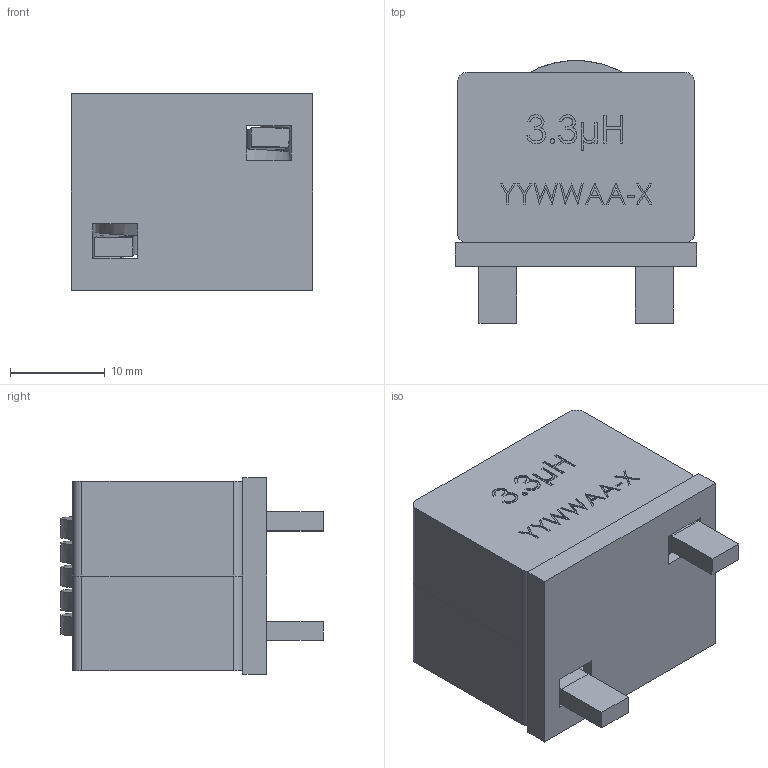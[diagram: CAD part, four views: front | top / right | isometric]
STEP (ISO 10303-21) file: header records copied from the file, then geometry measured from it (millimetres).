
FILE_DESCRIPTION (( 'STEP AP214' ), '1' );
FILE_NAME ('IHDM1008BCEB3R3M3A.STEP', '2020-11-30T14:27:55', ( '' ), ( '' ), 'SwSTEP 2.0', 'SolidWorks 2019', '' );
FILE_SCHEMA (( 'AUTOMOTIVE_DESIGN' ));
Length unit declared in the file: millimetre
Products named in the file (5): RK2518; IHDM1008BCEB3R3M3A; Coil 5 turn; header with locate fixture_No Draft or Fillet
Assembly tree (4 placements, depth 2):
  IHDM1008BCEB3R3M3A
    RK2518
    RK2518
    Coil 5 turn
    header with locate fixture_No Draft or Fillet
Bounding box: 25.53 x 27.74 x 20.73 mm (x, y, z)
Volume: 8431 mm3; surface area: 8581 mm2
Topology: 4 solids, 4 shells, 288 faces, 744 edges, 476 vertices
Faces by surface type: plane 188, bspline 52, cylinder 32, torus 16
Entity records: 11718 total; most frequent: CARTESIAN_POINT 4527, ORIENTED_EDGE 1480, DIRECTION 1222, EDGE_CURVE 740, LINE 560, VECTOR 560, VERTEX_POINT 476, AXIS2_PLACEMENT_3D 331
